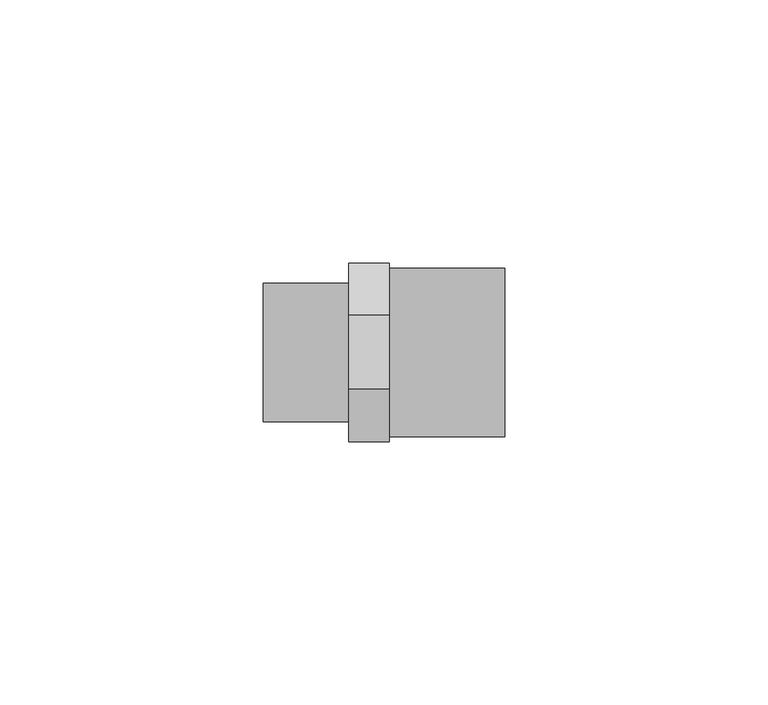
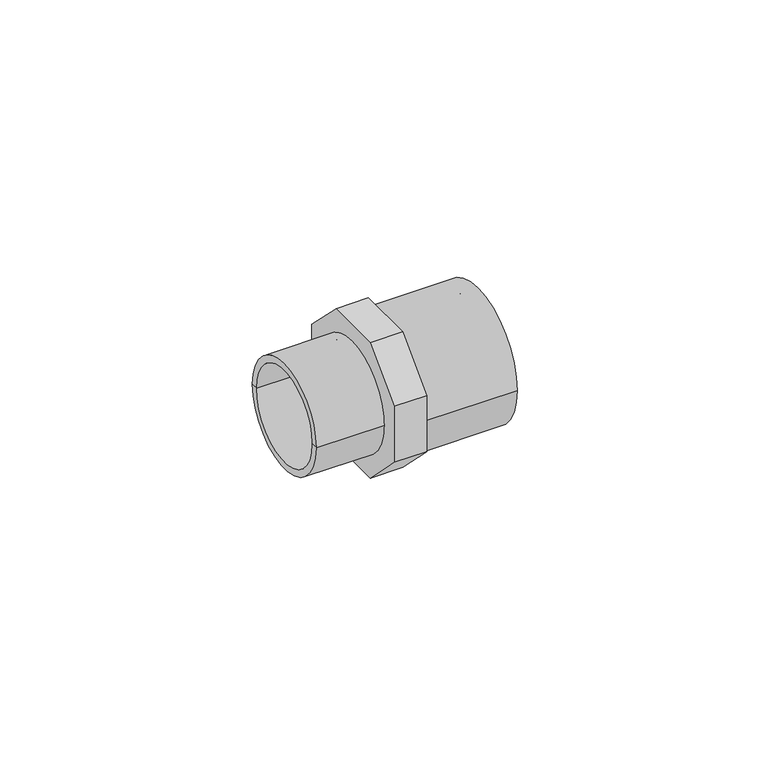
"""IFC4 building model written with IfcOpenShell, lengths in millimetres: pipe fitting geometry, Durapipe_PipeFitting_PVC_MaleThreadedAdaptors : 32 x 25 x 3⁄4."""

from ifc_helpers import new_model, si_unit, point, frame, origin, origin_2d, place, context, project, spatial, polyline, circle_curve, trimmed, segment, composite_curve, outline, extrude, source, transform, mapped, element, save
from ifc_brep_helpers import plane_surface, cylinder_surface, revolved_surface, advanced_brep


def pipe_fitting_867ca9e1(model_context):
    return source(origin(), model_context, "Body", "SolidModel", [
        extrude(outline(polyline([(17.0, 7.0416306), (17.0, -7.0416306), (7.0416306, -17.0), (-7.0416306, -17.0), (-17.0, -7.0416306), (-17.0, 7.0416306), (-7.0416306, 17.0), (7.0416306, 17.0), (17.0, 7.0416306)]), holes=[composite_curve([segment(trimmed(circle_curve(origin_2d(), 11.5), [point((11.5, 0.0))], [point((-11.5, 0.0))], True, "CARTESIAN"), True, "CONTINUOUS"), segment(trimmed(circle_curve(origin_2d(), 11.5), [point((-11.5, 0.0))], [point((11.5, 0.0))], True, "CARTESIAN"), True, "CONTINUOUS")], self_intersect=False)]), frame((-7.7, 0.0, 0.0), z_axis=(1.0, 0.0, 0.0), x_axis=(0.0, 1.0, 0.0)), (0.0, 0.0, 1.0), 7.7),
        advanced_brep(
        [(0.0, -16.0, 0.0), (0.0, 16.0, 0.0), (22.0, 16.0, 0.0), (22.0, -16.0, 0.0), (22.0, 12.5, 0.0), (22.0, -12.5, 0.0), (0.0, 0.0, 0.0), (3.0, 12.5, 0.0), (3.0, -12.5, 0.0), (3.0, 0.0, 0.0)],
        [
            (0, 1, circle_curve(frame((0.0, 0.0, 0.0), z_axis=(1.0, 0.0, 0.0), x_axis=(0.0, 1.0, 0.0)), 16.0)),
            (1, 2),
            (2, 3, circle_curve(frame((22.0, 0.0, 0.0), z_axis=(-1.0, 0.0, 0.0), x_axis=(0.0, 1.0, 0.0)), 16.0)),
            (3, 0),
            (1, 0, circle_curve(frame((0.0, 0.0, 0.0), z_axis=(1.0, 0.0, 0.0), x_axis=(0.0, 1.0, 0.0)), 16.0)),
            (3, 2, circle_curve(frame((22.0, 0.0, 0.0), z_axis=(-1.0, 0.0, 0.0), x_axis=(0.0, 1.0, 0.0)), 16.0)),
            (2, 4),
            (4, 5, circle_curve(frame((22.0, 0.0, 0.0), z_axis=(-1.0, 0.0, 0.0), x_axis=(0.0, 1.0, 0.0)), 12.5)),
            (5, 3),
            (5, 4, circle_curve(frame((22.0, 0.0, 0.0), z_axis=(-1.0, 0.0, 0.0), x_axis=(0.0, 1.0, 0.0)), 12.5)),
            (0, 6),
            (6, 1),
            (7, 8, circle_curve(frame((3.0, 0.0, 0.0), z_axis=(-1.0, 0.0, 0.0), x_axis=(0.0, 1.0, 0.0)), 12.5)),
            (8, 5),
            (4, 7),
            (8, 7, circle_curve(frame((3.0, 0.0, 0.0), z_axis=(-1.0, 0.0, 0.0), x_axis=(0.0, 1.0, 0.0)), 12.5)),
            (7, 9),
            (9, 8),
        ],
        [
            cylinder_surface(frame((423.4572068, 0.0, 0.0), z_axis=(-1.0, 0.0, 0.0), x_axis=(0.0, 1.0, 0.0)), 16.0),
            plane_surface(frame((22.0, 0.0, 0.0), z_axis=(1.0, 0.0, 0.0), x_axis=(0.0, 1.0, 0.0))),
            plane_surface(frame((0.0, 0.0, 0.0), z_axis=(-1.0, 0.0, 0.0), x_axis=(0.0, 1.0, 0.0))),
            revolved_surface(polyline([(3.0, 12.5, 0.0), (22.0, 12.5, 0.0)]), (35.5575137, 0.0, 0.0), (-1.0, 0.0, 0.0)),
            plane_surface(frame((3.0, 0.0, 0.0), z_axis=(1.0, 0.0, 0.0), x_axis=(0.0, 1.0, 0.0))),
        ],
        [
            (0, [[1, 2, 3, 4]]),
            (0, [[-2, 5, -4, 6]]),
            (1, [[-3, 7, 8, 9]]),
            (1, [[-6, -9, 10, -7]]),
            (2, [[-1, 11, 12]]),
            (2, [[-5, -12, -11]]),
            (3, [[13, 14, -8, 15]]),
            (3, [[16, -15, -10, -14]]),
            (4, [[-13, 17, 18]]),
            (4, [[-16, -18, -17]]),
        ],
    ),
        advanced_brep(
        [(-7.7, -11.5, 0.0), (-7.7, 11.5, 0.0), (-24.0, 11.5, 0.0), (-24.0, -11.5, 0.0), (-7.7, -13.2, 0.0), (-7.7, 13.2, 0.0), (-24.0, -13.2, 0.0), (-24.0, 13.2, 0.0)],
        [
            (0, 1, circle_curve(frame((-7.7, 0.0, 0.0), z_axis=(1.0, 0.0, 0.0), x_axis=(0.0, 1.0, 0.0)), 11.5)),
            (1, 2),
            (2, 3, circle_curve(frame((-24.0, 0.0, 0.0), z_axis=(-1.0, 0.0, 0.0), x_axis=(0.0, 1.0, 0.0)), 11.5)),
            (3, 0),
            (1, 0, circle_curve(frame((-7.7, 0.0, 0.0), z_axis=(1.0, 0.0, 0.0), x_axis=(0.0, 1.0, 0.0)), 11.5)),
            (3, 2, circle_curve(frame((-24.0, 0.0, 0.0), z_axis=(-1.0, 0.0, 0.0), x_axis=(0.0, 1.0, 0.0)), 11.5)),
            (4, 5, circle_curve(frame((-7.7, 0.0, 0.0), z_axis=(1.0, 0.0, 0.0), x_axis=(0.0, 1.0, 0.0)), 13.2)),
            (5, 1),
            (0, 4),
            (5, 4, circle_curve(frame((-7.7, 0.0, 0.0), z_axis=(1.0, 0.0, 0.0), x_axis=(0.0, 1.0, 0.0)), 13.2)),
            (6, 7, circle_curve(frame((-24.0, 0.0, 0.0), z_axis=(1.0, 0.0, 0.0), x_axis=(0.0, 1.0, 0.0)), 13.2)),
            (7, 5),
            (4, 6),
            (7, 6, circle_curve(frame((-24.0, 0.0, 0.0), z_axis=(1.0, 0.0, 0.0), x_axis=(0.0, 1.0, 0.0)), 13.2)),
            (2, 7),
            (6, 3),
        ],
        [
            revolved_surface(polyline([(-24.0, 11.5, 0.0), (-7.699999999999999, 11.5, 0.0)]), (-39.0, 0.0, 0.0), (-1.0, 0.0, 0.0)),
            plane_surface(frame((-7.7, 0.0, 0.0), z_axis=(1.0, 0.0, 0.0), x_axis=(0.0, 1.0, 0.0))),
            cylinder_surface(frame((-39.0, 0.0, 0.0), z_axis=(-1.0, 0.0, 0.0), x_axis=(0.0, 1.0, 0.0)), 13.2),
            plane_surface(frame((-24.0, 0.0, 0.0), z_axis=(-1.0, 0.0, 0.0), x_axis=(0.0, 1.0, 0.0))),
        ],
        [
            (0, [[1, 2, 3, 4]]),
            (0, [[5, -4, 6, -2]]),
            (1, [[7, 8, -1, 9]]),
            (1, [[10, -9, -5, -8]]),
            (2, [[11, 12, -7, 13]]),
            (2, [[14, -13, -10, -12]]),
            (3, [[-3, 15, -11, 16]]),
            (3, [[-6, -16, -14, -15]]),
        ],
    ),
    ])


if __name__ == "__main__":
    model = new_model("IFC4")
    model_context = context("Model", 3, world=origin())
    ifc_project = project(units=[si_unit("LENGTHUNIT", "METRE", prefix="MILLI")], contexts=[model_context])
    site = spatial("IfcSite", under=ifc_project)
    building = spatial("IfcBuilding", under=site)
    placement = place(None, origin())
    pipe_fitting_shape = pipe_fitting_867ca9e1(model_context)
    element("IfcPipeFitting", 1, ObjectType="Durapipe_PipeFitting_PVC_MaleThreadedAdaptors : 32 x 25 x 3⁄4", at=placement, inside=building, context=model_context, shape_type="MappedRepresentation", body=[
        mapped(pipe_fitting_shape, transform((0.0, 0.0, 0.0), x_axis=(1.0, 0.0, 0.0), y_axis=(0.0, 1.0, 0.0), z_axis=(0.0, 0.0, 1.0))),
    ])
    save(model, "model.ifc")
